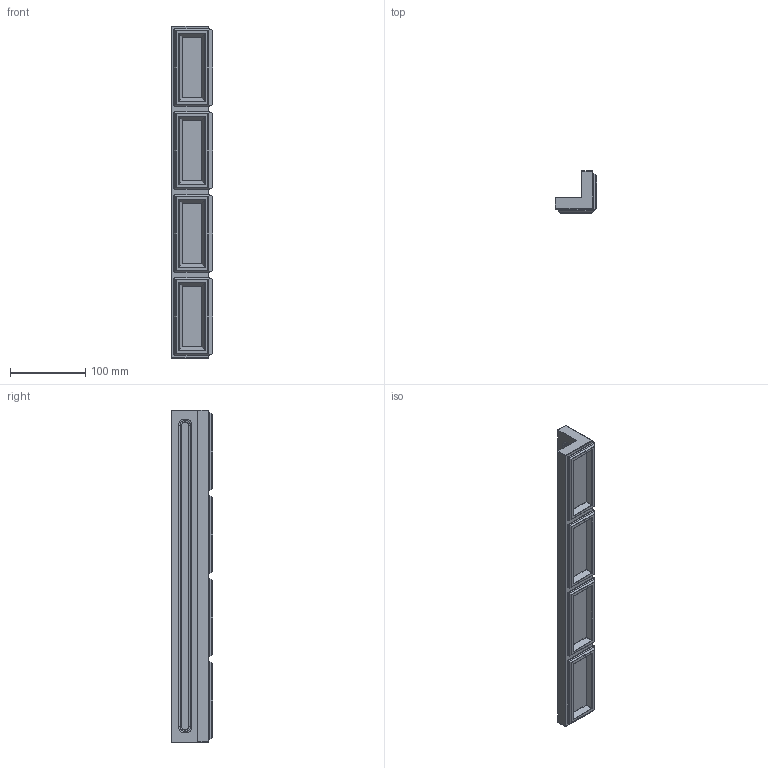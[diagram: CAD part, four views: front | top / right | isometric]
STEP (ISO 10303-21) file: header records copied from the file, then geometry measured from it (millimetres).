
FILE_DESCRIPTION(/* description */ (''),/* implementation_level */ '2;1');
FILE_NAME(/* name */ 'CI4410~1',/* time_stamp */ '2025-06-17T09:24:18+02:00',/* author */ (''),/* organization */ (''),/* preprocessor_version */ 'ST-DEVELOPER v15',/* originating_system */ '',/* authorisation */ '');
FILE_SCHEMA (('AUTOMOTIVE_DESIGN'));
Length unit declared in the file: millimetre
Products named in the file (1): Document
Bounding box: 55 x 55 x 440 mm (x, y, z)
Volume: 589329 mm3; surface area: 105611.4 mm2
Topology: 1 solids, 1 shells, 495 faces, 1153 edges, 632 vertices
Faces by surface type: bspline 385, plane 110
Entity records: 19939 total; most frequent: CARTESIAN_POINT 13504, ORIENTED_EDGE 2230, EDGE_CURVE 1115, VERTEX_POINT 632, B_SPLINE_CURVE_WITH_KNOTS 589, EDGE_LOOP 505, ADVANCED_FACE 495, FACE_OUTER_BOUND 495
